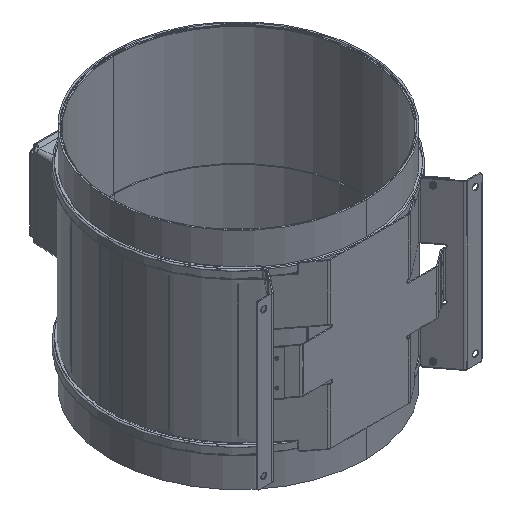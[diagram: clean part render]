
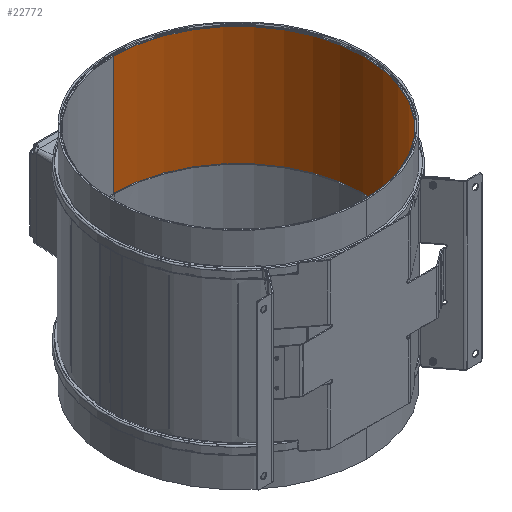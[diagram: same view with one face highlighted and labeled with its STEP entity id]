
A CAD part, isometric view. The second image highlights one B-rep face of the part: STEP entity #22772.
In plain terms, the highlighted cylindrical face has radius 194.655 mm (diameter 389.31 mm), a partial arc.
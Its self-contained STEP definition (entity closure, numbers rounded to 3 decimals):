
#587 = FACE_OUTER_BOUND ( 'NONE', #6357, .T. ) ;
#593 = CYLINDRICAL_SURFACE ( 'NONE', #16954, 194.655 ) ;
#3281 = CARTESIAN_POINT ( 'NONE',  ( 0., 0., 0. ) ) ;
#3284 = DIRECTION ( 'NONE',  ( 0., 0., 1. ) ) ;
#3287 = DIRECTION ( 'NONE',  ( 0., -1., 0. ) ) ;
#5030 = DIRECTION ( 'NONE',  ( 0., 0., 1. ) ) ;
#5031 = CARTESIAN_POINT ( 'NONE',  ( 0., 194.655, 0. ) ) ;
#6002 = ORIENTED_EDGE ( 'NONE', *, *, #10914, .T. ) ;
#6003 = ORIENTED_EDGE ( 'NONE', *, *, #17342, .F. ) ;
#6004 = ORIENTED_EDGE ( 'NONE', *, *, #13855, .F. ) ;
#6012 = ORIENTED_EDGE ( 'NONE', *, *, #17750, .T. ) ;
#6033 = ORIENTED_EDGE ( 'NONE', *, *, #13982, .T. ) ;
#6357 = EDGE_LOOP ( 'NONE', ( #6004, #6003, #6002, #6033, #6012 ) ) ;
#7768 = AXIS2_PLACEMENT_3D ( 'NONE', #23750, #23751, #23752 ) ;
#7899 = AXIS2_PLACEMENT_3D ( 'NONE', #25063, #25068, #25072 ) ;
#7983 = AXIS2_PLACEMENT_3D ( 'NONE', #27984, #27985, #27986 ) ;
#10914 = EDGE_CURVE ( 'NONE', #19433, #19442, #11658, .T. ) ;
#11658 = LINE ( 'NONE', #18632, #11661 ) ;
#11661 = VECTOR ( 'NONE', #18387, 1000. ) ;
#13855 = EDGE_CURVE ( 'NONE', #19435, #19440, #29695, .T. ) ;
#13982 = EDGE_CURVE ( 'NONE', #19442, #19432, #29740, .T. ) ;
#16954 = AXIS2_PLACEMENT_3D ( 'NONE', #3281, #3284, #3287 ) ;
#17342 = EDGE_CURVE ( 'NONE', #19433, #19435, #31392, .T. ) ;
#17750 = EDGE_CURVE ( 'NONE', #19432, #19440, #32644, .T. ) ;
#18387 = DIRECTION ( 'NONE',  ( 0., 0., 1. ) ) ;
#18632 = CARTESIAN_POINT ( 'NONE',  ( 0., -194.655, 0. ) ) ;
#19432 = VERTEX_POINT ( 'NONE', #24982 ) ;
#19433 = VERTEX_POINT ( 'NONE', #25067 ) ;
#19435 = VERTEX_POINT ( 'NONE', #24636 ) ;
#19440 = VERTEX_POINT ( 'NONE', #24781 ) ;
#19442 = VERTEX_POINT ( 'NONE', #24998 ) ;
#22772 = ADVANCED_FACE ( 'NONE', ( #587 ), #593, .F. ) ;
#23750 = CARTESIAN_POINT ( 'NONE',  ( 0., 0., -111.362 ) ) ;
#23751 = DIRECTION ( 'NONE',  ( 0., 0., 1. ) ) ;
#23752 = DIRECTION ( 'NONE',  ( 1., 0., 0. ) ) ;
#24636 = CARTESIAN_POINT ( 'NONE',  ( 0., 194.655, -296.452 ) ) ;
#24781 = CARTESIAN_POINT ( 'NONE',  ( 0., 194.655, -111.362 ) ) ;
#24982 = CARTESIAN_POINT ( 'NONE',  ( 194.655, 0., -111.362 ) ) ;
#24998 = CARTESIAN_POINT ( 'NONE',  ( 0., -194.655, -111.362 ) ) ;
#25063 = CARTESIAN_POINT ( 'NONE',  ( 0., 0., -111.362 ) ) ;
#25067 = CARTESIAN_POINT ( 'NONE',  ( 0., -194.655, -296.452 ) ) ;
#25068 = DIRECTION ( 'NONE',  ( 0., 0., 1. ) ) ;
#25072 = DIRECTION ( 'NONE',  ( 1., 0., 0. ) ) ;
#27984 = CARTESIAN_POINT ( 'NONE',  ( 0., 0., -296.452 ) ) ;
#27985 = DIRECTION ( 'NONE',  ( 0., 0., 1. ) ) ;
#27986 = DIRECTION ( 'NONE',  ( 0., -1., 0. ) ) ;
#29695 = LINE ( 'NONE', #5031, #29696 ) ;
#29696 = VECTOR ( 'NONE', #5030, 1000. ) ;
#29740 = CIRCLE ( 'NONE', #7768, 194.655 ) ;
#31392 = CIRCLE ( 'NONE', #7983, 194.655 ) ;
#32644 = CIRCLE ( 'NONE', #7899, 194.655 ) ;
